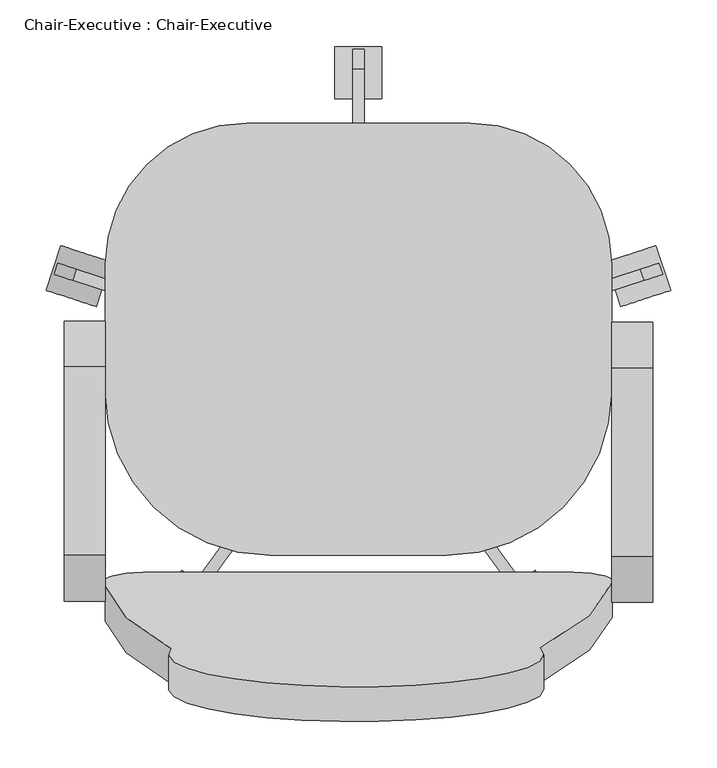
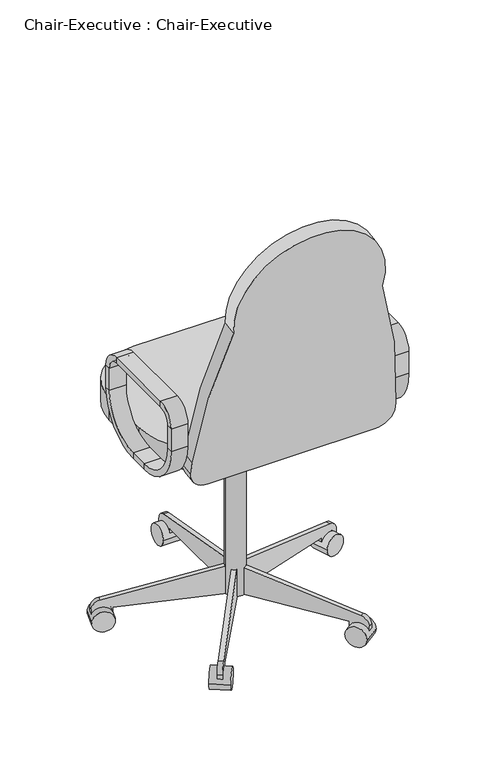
"""IFC4 building model written with IfcOpenShell, lengths in millimetres: furniture geometry, Chair-Executive : Chair-Executive."""

from ifc_helpers import new_model, si_unit, point, frame, frame_2d, origin, place, context, project, spatial, polyline, circle_curve, trimmed, segment, composite_curve, outline, extrude, source, transform, mapped, element, save
from ifc_brep_helpers import plane_surface, cylinder_surface, revolved_surface, advanced_brep


def chair_executive_chair_executive_328c2b5c(model_context):
    return source(origin(), model_context, "Body", "SolidModel", [
        advanced_brep(
        [(-176.5091803, -217.7873012, 710.2688203), (-176.5091803, -108.0540984, 600.5356175), (-176.5091803, -108.0540984, 584.6606175), (-176.5091803, -233.6623012, 710.2688203), (-132.0591803, -217.7873012, 710.2688203), (-132.0591803, -108.0540984, 600.5356175), (-132.0591803, -233.6623012, 710.2688203), (-132.0591803, -108.0540984, 584.6606175), (-176.5091803, -233.6623012, 773.7688203), (-176.5091803, -217.7873012, 773.7688203), (-132.0591803, -217.7873012, 773.7688203), (-132.0591803, -233.6623012, 773.7688203), (-176.5091803, -184.2540984, 807.3020231), (-176.5091803, -184.2540984, 823.1770231), (-132.0591803, -184.2540984, 807.3020231), (-132.0591803, -184.2540984, 823.1770231), (-176.5091803, 18.9459016, 823.1770231), (-176.5091803, 18.9459016, 807.3020231), (-132.0591803, 18.9459016, 807.3020231), (-132.0591803, 18.9459016, 823.1770231), (-176.5091803, 52.4791044, 773.7688203), (-176.5091803, 68.3541044, 773.7688203), (-132.0591803, 52.4791044, 773.7688203), (-132.0591803, 68.3541044, 773.7688203), (-176.5091803, 68.3541044, 710.2688203), (-176.5091803, 52.4791044, 710.2688203), (-132.0591803, 52.4791044, 710.2688203), (-132.0591803, 68.3541044, 710.2688203), (-176.5091803, -57.2540984, 600.5356175), (-176.5091803, -57.2540984, 584.6606175), (-132.0591803, -57.2540984, 600.5356175), (-132.0591803, -57.2540984, 584.6606175)],
        [
            (0, 1, circle_curve(frame((-176.5091803, -108.0540984, 710.2688203), z_axis=(1.0, 0.0, 0.0), x_axis=(0.0, 0.0, -1.0)), 109.7332028)),
            (1, 2),
            (2, 3, circle_curve(frame((-176.5091803, -108.0540984, 710.2688203), z_axis=(-1.0, 0.0, 0.0), x_axis=(0.0, 0.0, -1.0)), 125.6082028)),
            (3, 0),
            (4, 5, circle_curve(frame((-132.0591803, -108.0540984, 710.2688203), z_axis=(1.0, 0.0, 0.0), x_axis=(0.0, 0.0, -1.0)), 109.7332028)),
            (5, 1),
            (0, 4),
            (6, 7, circle_curve(frame((-132.0591803, -108.0540984, 710.2688203), z_axis=(1.0, 0.0, 0.0), x_axis=(0.0, 0.0, -1.0)), 125.6082028)),
            (7, 5),
            (4, 6),
            (2, 7),
            (6, 3),
            (3, 8),
            (8, 9),
            (9, 0),
            (9, 10),
            (10, 4),
            (10, 11),
            (11, 6),
            (11, 8),
            (12, 9, circle_curve(frame((-176.5091803, -184.2540984, 773.7688203), z_axis=(1.0, 0.0, 0.0), x_axis=(0.0, -1.0, 0.0)), 33.5332028)),
            (8, 13, circle_curve(frame((-176.5091803, -184.2540984, 773.7688203), z_axis=(-1.0, 0.0, 0.0), x_axis=(0.0, -1.0, 0.0)), 49.4082028)),
            (13, 12),
            (14, 10, circle_curve(frame((-132.0591803, -184.2540984, 773.7688203), z_axis=(1.0, 0.0, 0.0), x_axis=(0.0, -1.0, 0.0)), 33.5332028)),
            (12, 14),
            (15, 11, circle_curve(frame((-132.0591803, -184.2540984, 773.7688203), z_axis=(1.0, 0.0, 0.0), x_axis=(0.0, -1.0, 0.0)), 49.4082028)),
            (14, 15),
            (15, 13),
            (13, 16),
            (16, 17),
            (17, 12),
            (17, 18),
            (18, 14),
            (18, 19),
            (19, 15),
            (19, 16),
            (20, 17, circle_curve(frame((-176.5091803, 18.9459016, 773.7688203), z_axis=(1.0, 0.0, 0.0), x_axis=(0.0, 0.0, 1.0)), 33.5332028)),
            (16, 21, circle_curve(frame((-176.5091803, 18.9459016, 773.7688203), z_axis=(-1.0, 0.0, 0.0), x_axis=(0.0, 0.0, 1.0)), 49.4082028)),
            (21, 20),
            (22, 18, circle_curve(frame((-132.0591803, 18.9459016, 773.7688203), z_axis=(1.0, 0.0, 0.0), x_axis=(0.0, 0.0, 1.0)), 33.5332028)),
            (20, 22),
            (23, 19, circle_curve(frame((-132.0591803, 18.9459016, 773.7688203), z_axis=(1.0, 0.0, 0.0), x_axis=(0.0, 0.0, 1.0)), 49.4082028)),
            (22, 23),
            (23, 21),
            (21, 24),
            (24, 25),
            (25, 20),
            (25, 26),
            (26, 22),
            (26, 27),
            (27, 23),
            (27, 24),
            (28, 25, circle_curve(frame((-176.5091803, -57.2540984, 710.2688203), z_axis=(1.0, 0.0, 0.0), x_axis=(0.0, 1.0, 0.0)), 109.7332028)),
            (24, 29, circle_curve(frame((-176.5091803, -57.2540984, 710.2688203), z_axis=(-1.0, 0.0, 0.0), x_axis=(0.0, 1.0, 0.0)), 125.6082028)),
            (29, 28),
            (30, 26, circle_curve(frame((-132.0591803, -57.2540984, 710.2688203), z_axis=(1.0, 0.0, 0.0), x_axis=(0.0, 1.0, 0.0)), 109.7332028)),
            (28, 30),
            (31, 27, circle_curve(frame((-132.0591803, -57.2540984, 710.2688203), z_axis=(1.0, 0.0, 0.0), x_axis=(0.0, 1.0, 0.0)), 125.6082028)),
            (30, 31),
            (31, 29),
            (29, 2),
            (1, 28),
            (5, 30),
            (7, 31),
        ],
        [
            plane_surface(frame((-176.5091803, -108.0540984, 710.2688203), z_axis=(-1.0, 0.0, 0.0), x_axis=(0.0, 0.0, -1.0))),
            revolved_surface(polyline([(-176.5091803, -108.0540984, 600.5356175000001), (-132.0591803, -108.0540984, 600.5356175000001)]), (-132.0591803, -108.0540984, 710.2688203), (-1.0, 0.0, 0.0)),
            plane_surface(frame((-132.0591803, -108.0540984, 710.2688203), z_axis=(1.0, 0.0, 0.0), x_axis=(0.0, 0.0, -1.0))),
            cylinder_surface(frame((-132.0591803, -108.0540984, 710.2688203), z_axis=(-1.0, 0.0, 0.0), x_axis=(0.0, 0.0, -1.0)), 125.6082028),
            plane_surface(frame((-176.5091803, -233.6623012, 710.2688203), z_axis=(-1.0, 0.0, 0.0), x_axis=(0.0, 0.0, 1.0))),
            plane_surface(frame((-176.5091803, -217.7873012, 710.2688203), z_axis=(0.0, 1.0, 0.0), x_axis=(0.0, 0.0, 1.0))),
            plane_surface(frame((-132.0591803, -217.7873012, 710.2688203), z_axis=(1.0, 0.0, 0.0), x_axis=(0.0, 0.0, 1.0))),
            plane_surface(frame((-132.0591803, -233.6623012, 710.2688203), z_axis=(0.0, -1.0, 0.0), x_axis=(0.0, 0.0, 1.0))),
            plane_surface(frame((-176.5091803, -184.2540984, 773.7688203), z_axis=(-1.0, 0.0, 0.0), x_axis=(0.0, -1.0, 0.0))),
            revolved_surface(polyline([(-176.5091803, -217.7873012, 773.7688203), (-132.0591803, -217.7873012, 773.7688203)]), (-132.0591803, -184.2540984, 773.7688203), (-1.0, 0.0, 0.0)),
            plane_surface(frame((-132.0591803, -184.2540984, 773.7688203), z_axis=(1.0, 0.0, 0.0), x_axis=(0.0, -1.0, 0.0))),
            cylinder_surface(frame((-132.0591803, -184.2540984, 773.7688203), z_axis=(-1.0, 0.0, 0.0), x_axis=(0.0, -1.0, 0.0)), 49.4082028),
            plane_surface(frame((-176.5091803, -184.2540984, 823.1770231), z_axis=(-1.0, 0.0, 0.0), x_axis=(0.0, 1.0, 0.0))),
            plane_surface(frame((-176.5091803, -184.2540984, 807.3020231), z_axis=(0.0, 0.0, -1.0), x_axis=(0.0, 1.0, 0.0))),
            plane_surface(frame((-132.0591803, -184.2540984, 807.3020231), z_axis=(1.0, 0.0, 0.0), x_axis=(0.0, 1.0, 0.0))),
            plane_surface(frame((-132.0591803, -184.2540984, 823.1770231), z_axis=(0.0, 0.0, 1.0), x_axis=(0.0, 1.0, 0.0))),
            plane_surface(frame((-176.5091803, 18.9459016, 773.7688203), z_axis=(-1.0, 0.0, 0.0), x_axis=(0.0, 0.0, 1.0))),
            revolved_surface(polyline([(-176.5091803, 18.9459016, 807.3020231), (-132.0591803, 18.9459016, 807.3020231)]), (-132.0591803, 18.9459016, 773.7688203), (-1.0, 0.0, 0.0)),
            plane_surface(frame((-132.0591803, 18.9459016, 773.7688203), z_axis=(1.0, 0.0, 0.0), x_axis=(0.0, 0.0, 1.0))),
            cylinder_surface(frame((-132.0591803, 18.9459016, 773.7688203), z_axis=(-1.0, 0.0, 0.0), x_axis=(0.0, 0.0, 1.0)), 49.4082028),
            plane_surface(frame((-176.5091803, 68.3541044, 773.7688203), z_axis=(-1.0, 0.0, 0.0), x_axis=(0.0, 0.0, -1.0))),
            plane_surface(frame((-176.5091803, 52.4791044, 773.7688203), z_axis=(0.0, -1.0, 0.0), x_axis=(0.0, 0.0, -1.0))),
            plane_surface(frame((-132.0591803, 52.4791044, 773.7688203), z_axis=(1.0, 0.0, 0.0), x_axis=(0.0, 0.0, -1.0))),
            plane_surface(frame((-132.0591803, 68.3541044, 773.7688203), z_axis=(0.0, 1.0, 0.0), x_axis=(0.0, 0.0, -1.0))),
            plane_surface(frame((-176.5091803, -57.2540984, 710.2688203), z_axis=(-1.0, 0.0, 0.0), x_axis=(0.0, 1.0, 0.0))),
            revolved_surface(polyline([(-176.5091803, 52.479104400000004, 710.2688203), (-132.0591803, 52.479104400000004, 710.2688203)]), (-132.0591803, -57.2540984, 710.2688203), (-1.0, 0.0, 0.0)),
            plane_surface(frame((-132.0591803, -57.2540984, 710.2688203), z_axis=(1.0, 0.0, 0.0), x_axis=(0.0, 1.0, 0.0))),
            cylinder_surface(frame((-132.0591803, -57.2540984, 710.2688203), z_axis=(-1.0, 0.0, 0.0), x_axis=(0.0, 1.0, 0.0)), 125.6082028),
            plane_surface(frame((-176.5091803, -57.2540984, 584.6606175), z_axis=(-1.0, 0.0, 0.0), x_axis=(0.0, -1.0, 0.0))),
            plane_surface(frame((-176.5091803, -57.2540984, 600.5356175), z_axis=(0.0, 0.0, 1.0), x_axis=(0.0, -1.0, 0.0))),
            plane_surface(frame((-132.0591803, -57.2540984, 600.5356175), z_axis=(1.0, 0.0, 0.0), x_axis=(0.0, -1.0, 0.0))),
            plane_surface(frame((-132.0591803, -57.2540984, 584.6606175), z_axis=(0.0, 0.0, -1.0), x_axis=(0.0, -1.0, 0.0))),
        ],
        [
            (0, [[1, 2, 3, 4]]),
            (1, [[5, 6, -1, 7]]),
            (2, [[8, 9, -5, 10]]),
            (3, [[-3, 11, -8, 12]]),
            (4, [[-4, 13, 14, 15]]),
            (5, [[-7, -15, 16, 17]]),
            (6, [[-10, -17, 18, 19]]),
            (7, [[-12, -19, 20, -13]]),
            (8, [[21, -14, 22, 23]]),
            (9, [[24, -16, -21, 25]]),
            (10, [[26, -18, -24, 27]]),
            (11, [[-22, -20, -26, 28]]),
            (12, [[-23, 29, 30, 31]]),
            (13, [[-25, -31, 32, 33]]),
            (14, [[-27, -33, 34, 35]]),
            (15, [[-28, -35, 36, -29]]),
            (16, [[37, -30, 38, 39]]),
            (17, [[40, -32, -37, 41]]),
            (18, [[42, -34, -40, 43]]),
            (19, [[-38, -36, -42, 44]]),
            (20, [[-39, 45, 46, 47]]),
            (21, [[-41, -47, 48, 49]]),
            (22, [[-43, -49, 50, 51]]),
            (23, [[-44, -51, 52, -45]]),
            (24, [[53, -46, 54, 55]]),
            (25, [[56, -48, -53, 57]]),
            (26, [[58, -50, -56, 59]]),
            (27, [[-54, -52, -58, 60]]),
            (28, [[-55, 61, -2, 62]]),
            (29, [[-57, -62, -6, 63]]),
            (30, [[-59, -63, -9, 64]]),
            (31, [[-60, -64, -11, -61]]),
        ],
    ),
        advanced_brep(
        [(414.0408197, -235.0190683, 710.2688203), (414.0408197, -109.4108655, 584.6606175), (458.4908197, -109.4108655, 584.6606175), (458.4908197, -235.0190683, 710.2688203), (414.0408197, -219.1440683, 710.2688203), (414.0408197, -109.4108655, 600.5356175), (458.4908197, -219.1440683, 710.2688203), (458.4908197, -109.4108655, 600.5356175), (458.4908197, -235.0190683, 773.7688203), (414.0408197, -235.0190683, 773.7688203), (414.0408197, -219.1440683, 773.7688203), (458.4908197, -219.1440683, 773.7688203), (414.0408197, -185.6108655, 823.1770231), (458.4908197, -185.6108655, 823.1770231), (414.0408197, -185.6108655, 807.3020231), (458.4908197, -185.6108655, 807.3020231), (458.4908197, 17.5891345, 823.1770231), (414.0408197, 17.5891345, 823.1770231), (414.0408197, 17.5891345, 807.3020231), (458.4908197, 17.5891345, 807.3020231), (414.0408197, 66.9973373, 773.7688203), (458.4908197, 66.9973373, 773.7688203), (414.0408197, 51.1223373, 773.7688203), (458.4908197, 51.1223373, 773.7688203), (458.4908197, 66.9973373, 710.2688203), (414.0408197, 66.9973373, 710.2688203), (414.0408197, 51.1223373, 710.2688203), (458.4908197, 51.1223373, 710.2688203), (414.0408197, -58.6108655, 584.6606175), (458.4908197, -58.6108655, 584.6606175), (414.0408197, -58.6108655, 600.5356175), (458.4908197, -58.6108655, 600.5356175)],
        [
            (0, 1, circle_curve(frame((414.0408197, -109.4108655, 710.2688203), z_axis=(1.0, 0.0, 0.0), x_axis=(0.0, 0.0, -1.0)), 125.6082028)),
            (1, 2),
            (2, 3, circle_curve(frame((458.4908197, -109.4108655, 710.2688203), z_axis=(-1.0, 0.0, 0.0), x_axis=(0.0, 0.0, -1.0)), 125.6082028)),
            (3, 0),
            (4, 5, circle_curve(frame((414.0408197, -109.4108655, 710.2688203), z_axis=(1.0, 0.0, 0.0), x_axis=(0.0, 0.0, -1.0)), 109.7332028)),
            (5, 1),
            (0, 4),
            (6, 7, circle_curve(frame((458.4908197, -109.4108655, 710.2688203), z_axis=(1.0, 0.0, 0.0), x_axis=(0.0, 0.0, -1.0)), 109.7332028)),
            (7, 5),
            (4, 6),
            (2, 7),
            (6, 3),
            (3, 8),
            (8, 9),
            (9, 0),
            (9, 10),
            (10, 4),
            (10, 11),
            (11, 6),
            (11, 8),
            (12, 9, circle_curve(frame((414.0408197, -185.6108655, 773.7688203), z_axis=(1.0, 0.0, 0.0), x_axis=(0.0, -1.0, 0.0)), 49.4082028)),
            (8, 13, circle_curve(frame((458.4908197, -185.6108655, 773.7688203), z_axis=(-1.0, 0.0, 0.0), x_axis=(0.0, -1.0, 0.0)), 49.4082028)),
            (13, 12),
            (14, 10, circle_curve(frame((414.0408197, -185.6108655, 773.7688203), z_axis=(1.0, 0.0, 0.0), x_axis=(0.0, -1.0, 0.0)), 33.5332028)),
            (12, 14),
            (15, 11, circle_curve(frame((458.4908197, -185.6108655, 773.7688203), z_axis=(1.0, 0.0, 0.0), x_axis=(0.0, -1.0, 0.0)), 33.5332028)),
            (14, 15),
            (15, 13),
            (13, 16),
            (16, 17),
            (17, 12),
            (17, 18),
            (18, 14),
            (18, 19),
            (19, 15),
            (19, 16),
            (20, 17, circle_curve(frame((414.0408197, 17.5891345, 773.7688203), z_axis=(1.0, 0.0, 0.0), x_axis=(0.0, 0.0, 1.0)), 49.4082028)),
            (16, 21, circle_curve(frame((458.4908197, 17.5891345, 773.7688203), z_axis=(-1.0, 0.0, 0.0), x_axis=(0.0, 0.0, 1.0)), 49.4082028)),
            (21, 20),
            (22, 18, circle_curve(frame((414.0408197, 17.5891345, 773.7688203), z_axis=(1.0, 0.0, 0.0), x_axis=(0.0, 0.0, 1.0)), 33.5332028)),
            (20, 22),
            (23, 19, circle_curve(frame((458.4908197, 17.5891345, 773.7688203), z_axis=(1.0, 0.0, 0.0), x_axis=(0.0, 0.0, 1.0)), 33.5332028)),
            (22, 23),
            (23, 21),
            (21, 24),
            (24, 25),
            (25, 20),
            (25, 26),
            (26, 22),
            (26, 27),
            (27, 23),
            (27, 24),
            (28, 25, circle_curve(frame((414.0408197, -58.6108655, 710.2688203), z_axis=(1.0, 0.0, 0.0), x_axis=(0.0, 1.0, 0.0)), 125.6082028)),
            (24, 29, circle_curve(frame((458.4908197, -58.6108655, 710.2688203), z_axis=(-1.0, 0.0, 0.0), x_axis=(0.0, 1.0, 0.0)), 125.6082028)),
            (29, 28),
            (30, 26, circle_curve(frame((414.0408197, -58.6108655, 710.2688203), z_axis=(1.0, 0.0, 0.0), x_axis=(0.0, 1.0, 0.0)), 109.7332028)),
            (28, 30),
            (31, 27, circle_curve(frame((458.4908197, -58.6108655, 710.2688203), z_axis=(1.0, 0.0, 0.0), x_axis=(0.0, 1.0, 0.0)), 109.7332028)),
            (30, 31),
            (31, 29),
            (29, 2),
            (1, 28),
            (5, 30),
            (7, 31),
        ],
        [
            cylinder_surface(frame((414.0408197, -109.4108655, 710.2688203), z_axis=(-1.0, 0.0, 0.0), x_axis=(0.0, 0.0, -1.0)), 125.6082028),
            plane_surface(frame((414.0408197, -109.4108655, 710.2688203), z_axis=(-1.0, 0.0, 0.0), x_axis=(0.0, 0.0, -1.0))),
            revolved_surface(polyline([(414.0408197, -109.4108655, 600.5356175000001), (458.4908197, -109.4108655, 600.5356175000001)]), (414.0408197, -109.4108655, 710.2688203), (-1.0, 0.0, 0.0)),
            plane_surface(frame((458.4908197, -109.4108655, 710.2688203), z_axis=(1.0, 0.0, 0.0), x_axis=(0.0, 0.0, -1.0))),
            plane_surface(frame((458.4908197, -235.0190683, 710.2688203), z_axis=(0.0, -1.0, 0.0), x_axis=(0.0, 0.0, 1.0))),
            plane_surface(frame((414.0408197, -235.0190683, 710.2688203), z_axis=(-1.0, 0.0, 0.0), x_axis=(0.0, 0.0, 1.0))),
            plane_surface(frame((414.0408197, -219.1440683, 710.2688203), z_axis=(0.0, 1.0, 0.0), x_axis=(0.0, 0.0, 1.0))),
            plane_surface(frame((458.4908197, -219.1440683, 710.2688203), z_axis=(1.0, 0.0, 0.0), x_axis=(0.0, 0.0, 1.0))),
            cylinder_surface(frame((414.0408197, -185.6108655, 773.7688203), z_axis=(-1.0, 0.0, 0.0), x_axis=(0.0, -1.0, 0.0)), 49.4082028),
            plane_surface(frame((414.0408197, -185.6108655, 773.7688203), z_axis=(-1.0, 0.0, 0.0), x_axis=(0.0, -1.0, 0.0))),
            revolved_surface(polyline([(414.0408197, -219.1440683, 773.7688203), (458.4908197, -219.1440683, 773.7688203)]), (414.0408197, -185.6108655, 773.7688203), (-1.0, 0.0, 0.0)),
            plane_surface(frame((458.4908197, -185.6108655, 773.7688203), z_axis=(1.0, 0.0, 0.0), x_axis=(0.0, -1.0, 0.0))),
            plane_surface(frame((458.4908197, -185.6108655, 823.1770231), z_axis=(0.0, 0.0, 1.0), x_axis=(0.0, 1.0, 0.0))),
            plane_surface(frame((414.0408197, -185.6108655, 823.1770231), z_axis=(-1.0, 0.0, 0.0), x_axis=(0.0, 1.0, 0.0))),
            plane_surface(frame((414.0408197, -185.6108655, 807.3020231), z_axis=(0.0, 0.0, -1.0), x_axis=(0.0, 1.0, 0.0))),
            plane_surface(frame((458.4908197, -185.6108655, 807.3020231), z_axis=(1.0, 0.0, 0.0), x_axis=(0.0, 1.0, 0.0))),
            cylinder_surface(frame((414.0408197, 17.5891345, 773.7688203), z_axis=(-1.0, 0.0, 0.0), x_axis=(0.0, 0.0, 1.0)), 49.4082028),
            plane_surface(frame((414.0408197, 17.5891345, 773.7688203), z_axis=(-1.0, 0.0, 0.0), x_axis=(0.0, 0.0, 1.0))),
            revolved_surface(polyline([(414.0408197, 17.5891345, 807.3020231), (458.4908197, 17.5891345, 807.3020231)]), (414.0408197, 17.5891345, 773.7688203), (-1.0, 0.0, 0.0)),
            plane_surface(frame((458.4908197, 17.5891345, 773.7688203), z_axis=(1.0, 0.0, 0.0), x_axis=(0.0, 0.0, 1.0))),
            plane_surface(frame((458.4908197, 66.9973373, 773.7688203), z_axis=(0.0, 1.0, 0.0), x_axis=(0.0, 0.0, -1.0))),
            plane_surface(frame((414.0408197, 66.9973373, 773.7688203), z_axis=(-1.0, 0.0, 0.0), x_axis=(0.0, 0.0, -1.0))),
            plane_surface(frame((414.0408197, 51.1223373, 773.7688203), z_axis=(0.0, -1.0, 0.0), x_axis=(0.0, 0.0, -1.0))),
            plane_surface(frame((458.4908197, 51.1223373, 773.7688203), z_axis=(1.0, 0.0, 0.0), x_axis=(0.0, 0.0, -1.0))),
            cylinder_surface(frame((414.0408197, -58.6108655, 710.2688203), z_axis=(-1.0, 0.0, 0.0), x_axis=(0.0, 1.0, 0.0)), 125.6082028),
            plane_surface(frame((414.0408197, -58.6108655, 710.2688203), z_axis=(-1.0, 0.0, 0.0), x_axis=(0.0, 1.0, 0.0))),
            revolved_surface(polyline([(414.0408197, 51.1223373, 710.2688203), (458.4908197, 51.1223373, 710.2688203)]), (414.0408197, -58.6108655, 710.2688203), (-1.0, 0.0, 0.0)),
            plane_surface(frame((458.4908197, -58.6108655, 710.2688203), z_axis=(1.0, 0.0, 0.0), x_axis=(0.0, 1.0, 0.0))),
            plane_surface(frame((458.4908197, -58.6108655, 584.6606175), z_axis=(0.0, 0.0, -1.0), x_axis=(0.0, -1.0, 0.0))),
            plane_surface(frame((414.0408197, -58.6108655, 584.6606175), z_axis=(-1.0, 0.0, 0.0), x_axis=(0.0, -1.0, 0.0))),
            plane_surface(frame((414.0408197, -58.6108655, 600.5356175), z_axis=(0.0, 0.0, 1.0), x_axis=(0.0, -1.0, 0.0))),
            plane_surface(frame((458.4908197, -58.6108655, 600.5356175), z_axis=(1.0, 0.0, 0.0), x_axis=(0.0, -1.0, 0.0))),
        ],
        [
            (0, [[1, 2, 3, 4]]),
            (1, [[5, 6, -1, 7]]),
            (2, [[8, 9, -5, 10]]),
            (3, [[-3, 11, -8, 12]]),
            (4, [[-4, 13, 14, 15]]),
            (5, [[-7, -15, 16, 17]]),
            (6, [[-10, -17, 18, 19]]),
            (7, [[-12, -19, 20, -13]]),
            (8, [[21, -14, 22, 23]]),
            (9, [[24, -16, -21, 25]]),
            (10, [[26, -18, -24, 27]]),
            (11, [[-22, -20, -26, 28]]),
            (12, [[-23, 29, 30, 31]]),
            (13, [[-25, -31, 32, 33]]),
            (14, [[-27, -33, 34, 35]]),
            (15, [[-28, -35, 36, -29]]),
            (16, [[37, -30, 38, 39]]),
            (17, [[40, -32, -37, 41]]),
            (18, [[42, -34, -40, 43]]),
            (19, [[-38, -36, -42, 44]]),
            (20, [[-39, 45, 46, 47]]),
            (21, [[-41, -47, 48, 49]]),
            (22, [[-43, -49, 50, 51]]),
            (23, [[-44, -51, 52, -45]]),
            (24, [[53, -46, 54, 55]]),
            (25, [[56, -48, -53, 57]]),
            (26, [[58, -50, -56, 59]]),
            (27, [[-54, -52, -58, 60]]),
            (28, [[-55, 61, -2, 62]]),
            (29, [[-57, -62, -6, 63]]),
            (30, [[-59, -63, -9, 64]]),
            (31, [[-60, -64, -11, -61]]),
        ],
    ),
        extrude(outline(composite_curve([segment(trimmed(circle_curve(frame_2d((0.0, -51.0606507)), 51.0606507), [point((0.0, 0.0))], [point((51.0606507, -51.0606507))], False, "CARTESIAN"), True, "CONTINUOUS"), segment(polyline([(51.0606507, -51.0606507), (51.0606507, -64.5479294)]), True, "CONTINUOUS"), segment(trimmed(circle_curve(frame_2d((-1471.0896937, 13.8031212)), 1524.1655284), [point((51.0606507, -64.5479294))], [point((-26.2233173, -471.4202425))], False, "CARTESIAN"), True, "CONTINUOUS"), segment(trimmed(circle_curve(frame_2d((-224.8079872, -510.6015675)), 202.4130612), [point((-26.2233173, -471.4202425))], [point((-424.3809505, -476.8128167))], False, "CARTESIAN"), True, "CONTINUOUS"), segment(trimmed(circle_curve(frame_2d((1026.1714492, -9.4726633)), 1523.9780455), [point((-424.3809505, -476.8128167))], [point((-495.7641845, -88.3460433))], False, "CARTESIAN"), True, "CONTINUOUS"), segment(polyline([(-495.7641845, -88.3460433), (-495.7641845, -50.9657229)]), True, "CONTINUOUS"), segment(trimmed(circle_curve(frame_2d((-444.7984615, -50.9657229)), 50.965723), [point((-495.7641845, -50.9657229))], [point((-444.7984615, 0.0))], False, "CARTESIAN"), True, "CONTINUOUS"), segment(polyline([(-444.7984615, 0.0), (0.0, 0.0)]), True, "CONTINUOUS")], self_intersect=False)), frame((363.4612462, -239.8312172, 589.7154333), z_axis=(0.0, 0.9848077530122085, 0.17364817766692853), x_axis=(1.0, 0.0, 0.0)), (0.0, 0.0, 1.0), 38.1),
        extrude(outline(composite_curve([segment(trimmed(circle_curve(frame_2d((20.3408197, 129.4961016)), 152.4), [point((-132.0591803, 129.4961016))], [point((20.3408197, 281.8961016))], False, "CARTESIAN"), True, "CONTINUOUS"), segment(polyline([(20.3408197, 281.8961016), (261.6408197, 281.8961016)]), True, "CONTINUOUS"), segment(trimmed(circle_curve(frame_2d((261.6408197, 129.4961016)), 152.4), [point((261.6408197, 281.8961016))], [point((414.0408197, 129.4961016))], False, "CARTESIAN"), True, "CONTINUOUS"), segment(polyline([(414.0408197, 129.4961016), (414.0408197, -6.4540984)]), True, "CONTINUOUS"), segment(trimmed(circle_curve(frame_2d((236.2408197, -6.4540984)), 177.8), [point((414.0408197, -6.4540984))], [point((236.2408197, -184.2540984))], False, "CARTESIAN"), True, "CONTINUOUS"), segment(polyline([(236.2408197, -184.2540984), (45.7408197, -184.2540984)]), True, "CONTINUOUS"), segment(trimmed(circle_curve(frame_2d((45.7408197, -6.4540984)), 177.8), [point((45.7408197, -184.2540984))], [point((-132.0591803, -6.4540984))], False, "CARTESIAN"), True, "CONTINUOUS"), segment(polyline([(-132.0591803, -6.4540984), (-132.0591803, 129.4961016)]), True, "CONTINUOUS")], self_intersect=False)), frame((0.0, 0.0, 564.3264907), z_axis=(0.0, 0.0, 1.0), x_axis=(1.0, 0.0, 0.0)), (0.0, 0.0, 1.0), 62.255427),
        extrude(outline(composite_curve([segment(trimmed(circle_curve(frame_2d((140.9908197, 18.9459016)), 25.4), [point((115.5908197, 18.9459016))], [point((166.3908197, 18.9459016))], False, "CARTESIAN"), True, "CONTINUOUS"), segment(trimmed(circle_curve(frame_2d((140.9908197, 18.9459016)), 25.4), [point((166.3908197, 18.9459016))], [point((115.5908197, 18.9459016))], False, "CARTESIAN"), True, "CONTINUOUS")], self_intersect=False)), frame((0.0, 0.0, 53.5835944), z_axis=(0.0, 0.0, 1.0), x_axis=(1.0, 0.0, 0.0)), (0.0, 0.0, 1.0), 502.681524),
        extrude(outline(composite_curve([segment(trimmed(circle_curve(frame_2d((0.0, -28.2002727)), 28.2002727), [point((0.0, -56.4005455))], [point((0.0, 0.0))], False, "CARTESIAN"), True, "CONTINUOUS"), segment(trimmed(circle_curve(frame_2d((0.0, -28.2002727)), 28.2002727), [point((0.0, 0.0))], [point((0.0, -56.4005455))], False, "CARTESIAN"), True, "CONTINUOUS")], self_intersect=False)), frame((477.6203484, 101.6163254, 28.1835944), z_axis=(-0.3090169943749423, 0.9510565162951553, 0.0), x_axis=(0.0, 0.0, 1.0)), (0.0, 0.0, 1.0), 50.8),
        extrude(outline(composite_curve([segment(polyline([(-25.4, 0.0), (0.0, 0.0), (0.0, -50.8), (-24.303053, -50.8)]), True, "CONTINUOUS"), segment(trimmed(circle_curve(frame_2d((-24.303053, -25.4)), 25.4), [point((-24.303053, -50.8))], [point((-49.3171699, -29.8106637))], False, "CARTESIAN"), True, "CONTINUOUS"), segment(polyline([(-49.3171699, -29.8106637), (-101.6, 266.7), (-101.6, 292.1), (-25.4, 292.1), (-25.4, 0.0)]), True, "CONTINUOUS")], self_intersect=False)), frame((420.756686, 103.1705568, 28.1835944), z_axis=(-0.3090169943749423, 0.9510565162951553, 0.0), x_axis=(0.0, 0.0, -1.0)), (0.0, 0.0, 1.0), 12.7),
        extrude(outline(composite_curve([segment(trimmed(circle_curve(frame_2d((0.0, -28.2002727)), 28.2002727), [point((0.0, -56.4005455))], [point((0.0, 0.0))], False, "CARTESIAN"), True, "CONTINUOUS"), segment(trimmed(circle_curve(frame_2d((0.0, -28.2002727)), 28.2002727), [point((0.0, 0.0))], [point((0.0, -56.4005455))], False, "CARTESIAN"), True, "CONTINUOUS")], self_intersect=False)), frame((323.63931, -275.6612394, 28.1835944), z_axis=(0.8090169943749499, 0.5877852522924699, 0.0), x_axis=(0.0, 0.0, 1.0)), (0.0, 0.0, 1.0), 50.8),
        extrude(outline(composite_curve([segment(polyline([(-25.4, 0.0), (0.0, 0.0), (0.0, -50.8), (-24.303053, -50.8)]), True, "CONTINUOUS"), segment(trimmed(circle_curve(frame_2d((-24.303053, -25.3999999)), 25.4), [point((-24.303053, -50.8))], [point((-49.3171699, -29.8106636))], False, "CARTESIAN"), True, "CONTINUOUS"), segment(polyline([(-49.3171699, -29.8106636), (-101.6, 266.7), (-101.6, 292.1), (-25.4, 292.1), (-25.4, 0.0)]), True, "CONTINUOUS")], self_intersect=False)), frame((307.545634, -221.1003988, 28.1835944), z_axis=(0.8090169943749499, 0.5877852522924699, 0.0), x_axis=(0.0, 0.0, -1.0)), (0.0, 0.0, 1.0), 12.7),
        extrude(outline(composite_curve([segment(trimmed(circle_curve(frame_2d((0.0, -28.2002727)), 28.2002727), [point((0.0, -56.4005455))], [point((0.0, 0.0))], False, "CARTESIAN"), True, "CONTINUOUS"), segment(trimmed(circle_curve(frame_2d((0.0, -28.2002727)), 28.2002727), [point((0.0, 0.0))], [point((0.0, -56.4005455))], False, "CARTESIAN"), True, "CONTINUOUS")], self_intersect=False)), frame((-41.6576707, -275.6612394, 28.1835944), z_axis=(-0.8090169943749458, 0.5877852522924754, 0.0), x_axis=(0.0, 0.0, -1.0)), (0.0, 0.0, 1.0), 50.8),
        extrude(outline(composite_curve([segment(polyline([(25.4, 0.0), (25.4, 292.1), (101.6, 292.1), (101.6, 266.7), (49.3171699, -29.8106637)]), True, "CONTINUOUS"), segment(trimmed(circle_curve(frame_2d((24.303053, -25.3999999)), 25.4), [point((49.3171699, -29.8106637))], [point((24.303053, -50.8))], False, "CARTESIAN"), True, "CONTINUOUS"), segment(polyline([(24.303053, -50.8), (0.0, -50.8), (0.0, 0.0), (25.4, 0.0)]), True, "CONTINUOUS")], self_intersect=False)), frame((-25.5639946, -221.1003988, 28.1835944), z_axis=(-0.8090169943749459, 0.5877852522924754, 0.0), x_axis=(0.0, 0.0, 1.0)), (0.0, 0.0, 1.0), 12.7),
        extrude(outline(composite_curve([segment(trimmed(circle_curve(frame_2d((0.0, -28.2002727)), 28.2002727), [point((0.0, -56.4005454))], [point((0.0, 0.0))], False, "CARTESIAN"), True, "CONTINUOUS"), segment(trimmed(circle_curve(frame_2d((0.0, -28.2002727)), 28.2002727), [point((0.0, 0.0))], [point((0.0, -56.4005454))], False, "CARTESIAN"), True, "CONTINUOUS")], self_intersect=False)), frame((-195.638709, 101.6163254, 28.1835944), z_axis=(0.3090169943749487, 0.9510565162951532, 0.0), x_axis=(0.0, 0.0, -1.0)), (0.0, 0.0, 1.0), 50.8),
        extrude(outline(composite_curve([segment(polyline([(25.4, 0.0), (25.4, 292.1000001), (101.6, 292.1000001), (101.6, 266.7), (49.3171699, -29.8106636)]), True, "CONTINUOUS"), segment(trimmed(circle_curve(frame_2d((24.303053, -25.4)), 25.4), [point((49.3171699, -29.8106636))], [point((24.303053, -50.8))], False, "CARTESIAN"), True, "CONTINUOUS"), segment(polyline([(24.303053, -50.8), (0.0, -50.8), (0.0, 0.0), (25.4, 0.0)]), True, "CONTINUOUS")], self_intersect=False)), frame((-138.7750467, 103.1705568, 28.1835944), z_axis=(0.3090169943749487, 0.9510565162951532, 0.0), x_axis=(0.0, 0.0, 1.0)), (0.0, 0.0, 1.0), 12.7),
        extrude(outline(composite_curve([segment(trimmed(circle_curve(frame_2d((336.4459016, 28.1835944)), 28.2002727), [point((308.2456289, 28.1835944))], [point((364.6461744, 28.1835944))], False, "CARTESIAN"), True, "CONTINUOUS"), segment(trimmed(circle_curve(frame_2d((336.4459016, 28.1835944)), 28.2002727), [point((364.6461744, 28.1835944))], [point((308.2456289, 28.1835944))], False, "CARTESIAN"), True, "CONTINUOUS")], self_intersect=False)), frame((115.5908197, 0.0, 0.0), z_axis=(1.0, 0.0, 0.0), x_axis=(0.0, 1.0, 0.0)), (0.0, 0.0, 1.0), 50.8),
        extrude(outline(composite_curve([segment(polyline([(311.0459016, 53.5835944), (18.9459016, 53.5835944), (18.9459016, 129.7835944), (44.3459016, 129.7835944), (340.8565654, 77.5007643)]), True, "CONTINUOUS"), segment(trimmed(circle_curve(frame_2d((336.4459016, 52.4866474)), 25.4), [point((340.8565654, 77.5007643))], [point((361.8459016, 52.4866474))], False, "CARTESIAN"), True, "CONTINUOUS"), segment(polyline([(361.8459016, 52.4866474), (361.8459016, 28.1835944), (311.0459016, 28.1835944), (311.0459016, 53.5835944)]), True, "CONTINUOUS")], self_intersect=False)), frame((134.6408197, 0.0, 0.0), z_axis=(1.0, 0.0, 0.0), x_axis=(0.0, 1.0, 0.0)), (0.0, 0.0, 1.0), 12.7),
        extrude(outline(polyline([(69.7459016, 564.3264907), (69.7459016, 551.6264907), (18.9459016, 463.6383097), (-19.1540984, 463.6383097), (-19.1540984, 564.3264907), (69.7459016, 564.3264907)])), frame((90.1908197, 0.0, 0.0), z_axis=(1.0, 0.0, 0.0), x_axis=(0.0, 1.0, 0.0)), (0.0, 0.0, 1.0), 101.6),
    ])


if __name__ == "__main__":
    model = new_model("IFC4")
    model_context = context("Model", 3, world=origin())
    ifc_project = project(units=[si_unit("LENGTHUNIT", "METRE", prefix="MILLI")], contexts=[model_context])
    site = spatial("IfcSite", under=ifc_project)
    building = spatial("IfcBuilding", under=site)
    placement = place(None, origin())
    chair_executive_chair_executive_shape = chair_executive_chair_executive_328c2b5c(model_context)
    element("IfcFurniture", 1, ObjectType="Chair-Executive : Chair-Executive", at=placement, inside=building, context=model_context, shape_type="MappedRepresentation", body=[
        mapped(chair_executive_chair_executive_shape, transform((0.0, 0.0, 0.0), x_axis=(1.0, 0.0, 0.0), y_axis=(0.0, 1.0, 0.0), z_axis=(0.0, 0.0, 1.0))),
    ])
    save(model, "model.ifc")
